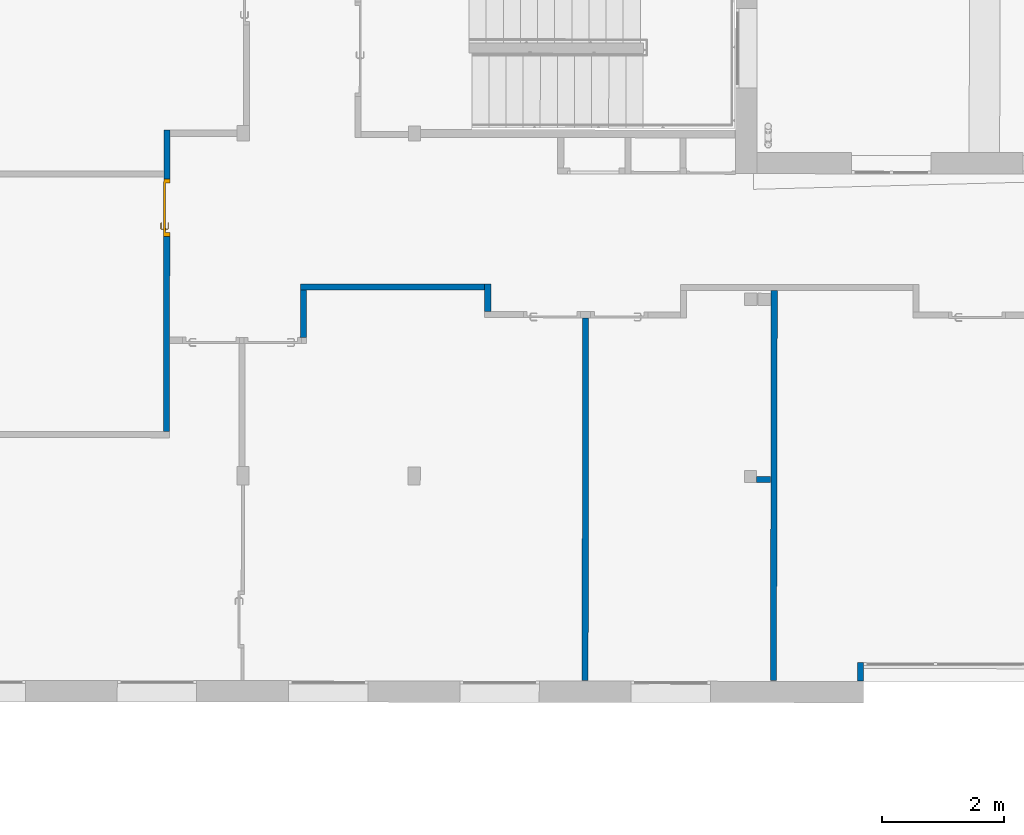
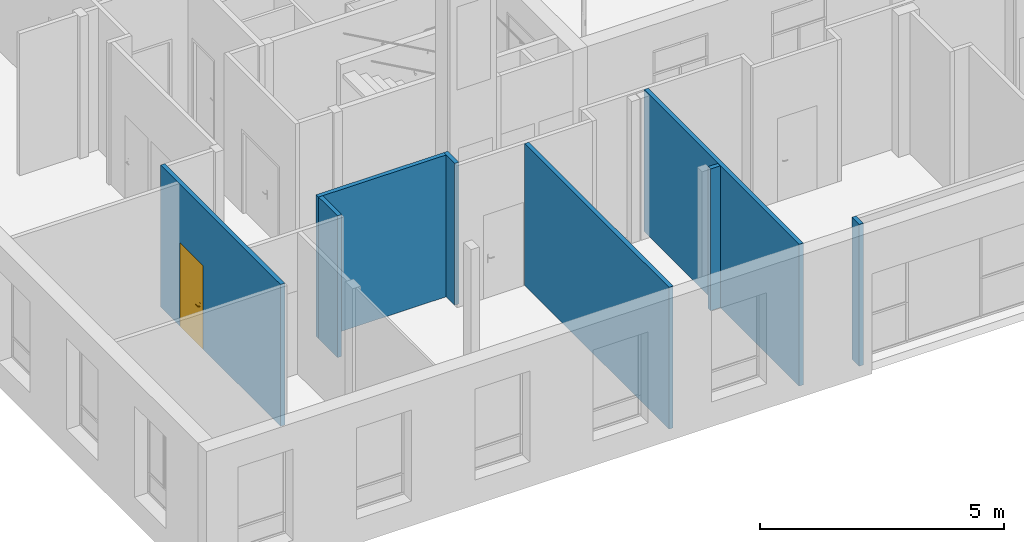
# One storey, part 44 of 101: 8 walls, 1 door, 1 opening.
"""IFC2X3 building model written with IfcOpenShell, lengths in metres."""

import ifcopenshell
import ifcopenshell.guid

model = None  # the IFC model being written
_history = None  # IfcOwnerHistory: only IFC2X3 demands one
_inside = {}  # id of a spatial element -> (the spatial element, [elements in it])
_under = {}  # id of a project, library or spatial element -> (it, [spatial elements below it])
_declared = {}  # id of a project -> (the project, [libraries it declares])
_typed = {}  # id of a type object -> (the type object, [elements of that type])
_made_of = {}  # id of a material, layer set ... -> (it, [elements and type objects made of it])


def new_model(schema):
    """Start an empty IFC model of exactly this schema.

    Asked for "IFC4X3", IfcOpenShell would pick the latest addendum, in which some entities
    have other attributes; the version numbers below select the first issue.
    IFC2X3 requires an IfcOwnerHistory on every rooted entity: one is made here for all.
    """
    global model, _history
    if schema == "IFC4X3":
        model = ifcopenshell.file(schema_version=(4, 3, 0, 0))
    else:
        model = ifcopenshell.file(schema=schema)
    _inside.clear()
    _under.clear()
    _declared.clear()
    _typed.clear()
    _made_of.clear()
    _history = None
    if model.schema == "IFC2X3":
        org = make("IfcOrganization", Name="unknown")
        user = make(
            "IfcPersonAndOrganization",
            ThePerson=make("IfcPerson", FamilyName="unknown"),
            TheOrganization=org,
        )
        app = make(
            "IfcApplication",
            ApplicationDeveloper=org,
            Version="unknown",
            ApplicationFullName="unknown",
            ApplicationIdentifier="unknown",
        )
        _history = make(
            "IfcOwnerHistory",
            OwningUser=user,
            OwningApplication=app,
            ChangeAction="ADDED",
            CreationDate=0,
        )
    return model


def make(cls, **values):
    """One entity of the class cls with the attributes given. An attribute that is None is left unset."""
    return model.create_entity(
        cls, **{name: value for name, value in values.items() if value is not None}
    )


def entity(cls, *values):
    """Any entity or typed value of the class cls, its attributes in the order of the schema. None: left unset."""
    e = model.create_entity(cls)
    for i, value in enumerate(values):
        if value is not None:
            e[i] = value
    return e


def rooted(cls, **values):
    """An entity with a GlobalId (a new one), such as an element, a storey or a relation."""
    return make(cls, GlobalId=ifcopenshell.guid.new(), OwnerHistory=_history, **values)


def si_unit(unit_type, name, prefix=None):
    """IfcSIUnit, for example si_unit("LENGTHUNIT", "METRE", prefix="MILLI")."""
    return make("IfcSIUnit", UnitType=unit_type, Prefix=prefix, Name=name)


def converted_unit(unit_type, name, factor, base, dimensions=None, offset=None):
    """IfcConversionBasedUnit, such as the inch: factor (a typed value) times the base unit."""
    return make(
        "IfcConversionBasedUnit"
        if offset is None
        else "IfcConversionBasedUnitWithOffset",
        ConversionOffset=offset,
        Dimensions=None
        if dimensions is None
        else entity("IfcDimensionalExponents", *dimensions),
        UnitType=unit_type,
        Name=name,
        ConversionFactor=make(
            "IfcMeasureWithUnit", ValueComponent=factor, UnitComponent=base
        ),
    )


def derived_unit(unit_type, elements):
    """IfcDerivedUnit: a product of units, each with its exponent."""
    return make(
        "IfcDerivedUnit",
        Elements=[
            make("IfcDerivedUnitElement", Unit=unit, Exponent=power)
            for unit, power in elements
        ],
        UnitType=unit_type,
    )


def assignment(units):
    """IfcUnitAssignment: the units of a project."""
    return None if units is None else make("IfcUnitAssignment", Units=units)


def point(xyz):
    """IfcCartesianPoint."""
    return None if xyz is None else make("IfcCartesianPoint", Coordinates=xyz)


def direction(xyz):
    """IfcDirection."""
    return None if xyz is None else make("IfcDirection", DirectionRatios=xyz)


def frame(location, z_axis=None, x_axis=None):
    """IfcAxis2Placement3D, a coordinate frame: its origin and axes. An axis left out is left unset."""
    return make(
        "IfcAxis2Placement3D",
        Location=point(location),
        Axis=direction(z_axis),
        RefDirection=direction(x_axis),
    )


def frame_2d(location, x_axis=None):
    """IfcAxis2Placement2D, a coordinate frame in the plane: its origin and x axis."""
    return make(
        "IfcAxis2Placement2D", Location=point(location), RefDirection=direction(x_axis)
    )


def origin():
    """The frame at (0, 0, 0) with its axes left unset."""
    return frame((0.0, 0.0, 0.0))


def place(relative_to, where):
    """IfcLocalPlacement: puts the frame where relative to a parent placement (None: the world)."""
    return make(
        "IfcLocalPlacement", PlacementRelTo=relative_to, RelativePlacement=where
    )


def context(
    kind, dimensions, precision=None, world=None, true_north=None, identifier=None
):
    """IfcGeometricRepresentationContext, for example the 3D "Model" context."""
    return make(
        "IfcGeometricRepresentationContext",
        ContextIdentifier=identifier,
        ContextType=kind,
        CoordinateSpaceDimension=dimensions,
        Precision=precision,
        WorldCoordinateSystem=world,
        TrueNorth=true_north,
    )


def subcontext(parent, identifier, kind, view, scale=None):
    """IfcGeometricRepresentationSubContext, for example "Body" below "Model"."""
    return make(
        "IfcGeometricRepresentationSubContext",
        ContextIdentifier=identifier,
        ContextType=kind,
        ParentContext=parent,
        TargetScale=scale,
        TargetView=view,
    )


def project(units=None, contexts=None):
    """IfcProject with its units and contexts."""
    return rooted(
        "IfcProject",
        Name="project",
        RepresentationContexts=contexts,
        UnitsInContext=assignment(units),
    )


def spatial(cls, under=None, at=None, **own):
    """A site, building, storey or space (cls), placed at a placement, below another one or the project."""
    s = rooted(cls, ObjectPlacement=at, **own)
    if under is not None:
        _under.setdefault(under.id(), (under, []))[1].append(s)
    return s


def polyline(points):
    """IfcPolyline through the points."""
    return make("IfcPolyline", Points=[point(p) for p in points])


def profile(cls, at=None, kind="AREA", **sizes):
    """A parametric profile (cls). Its sizes go by their IFC names, for example OverallWidth=200.0."""
    return make(cls, ProfileType=kind, Position=at, **sizes)


def rectangle(**sizes):
    """IfcRectangleProfileDef."""
    return profile("IfcRectangleProfileDef", **sizes)


def outline(outer, holes=None, kind="AREA"):
    """IfcArbitraryClosedProfileDef: a profile drawn as a closed curve; with holes, ...WithVoids."""
    if holes is None:
        return make("IfcArbitraryClosedProfileDef", ProfileType=kind, OuterCurve=outer)
    return make(
        "IfcArbitraryProfileDefWithVoids",
        ProfileType=kind,
        OuterCurve=outer,
        InnerCurves=holes,
    )


def extrude(swept, where, along, depth):
    """IfcExtrudedAreaSolid: the profile swept, set in the frame where, extruded along a direction by depth."""
    return make(
        "IfcExtrudedAreaSolid",
        SweptArea=swept,
        Position=where,
        ExtrudedDirection=direction(along),
        Depth=depth,
    )


def faces_of(points, faces, orient=None, outer=None):
    """IfcFace entities. A face is a list of loops; a loop is a list of indices into points, from 0.

    orient and outer hold one flag for each loop. By default every Orientation is true, the
    first loop of a face is its IfcFaceOuterBound and the others are IfcFaceBound.
    """
    made = []
    for i, loops in enumerate(faces):
        bounds = []
        for j, loop in enumerate(loops):
            is_outer = j == 0 if outer is None else outer[i][j]
            bounds.append(
                make(
                    "IfcFaceOuterBound" if is_outer else "IfcFaceBound",
                    Bound=make("IfcPolyLoop", Polygon=[points[k] for k in loop]),
                    Orientation=True if orient is None else orient[i][j],
                )
            )
        made.append(make("IfcFace", Bounds=bounds))
    return made


def faceted_brep(points, faces, orient=None, outer=None, voids=None):
    """IfcFacetedBrep: a solid bounded by flat faces; with voids (closed shells), ...WithVoids."""
    shared = [point(p) for p in points]
    hull = make("IfcClosedShell", CfsFaces=faces_of(shared, faces, orient, outer))
    if voids is None:
        return make("IfcFacetedBrep", Outer=hull)
    return make(
        "IfcFacetedBrepWithVoids",
        Outer=hull,
        Voids=[
            make(cls, CfsFaces=faces_of(shared, fs, o, b)) for cls, fs, o, b in voids
        ],
    )


def shape(context_of_items, identifier, shape_type, items):
    """IfcShapeRepresentation: the items that make up one representation, for example the "Body"."""
    return make(
        "IfcShapeRepresentation",
        ContextOfItems=context_of_items,
        RepresentationIdentifier=identifier,
        RepresentationType=shape_type,
        Items=items,
    )


def source(mapping_origin, context_of_items, identifier, shape_type, items):
    """IfcRepresentationMap: a shape defined once, which mapped items show again and again."""
    return make(
        "IfcRepresentationMap",
        MappingOrigin=mapping_origin,
        MappedRepresentation=shape(context_of_items, identifier, shape_type, items),
    )


def transform(
    local_origin,
    x_axis=None,
    y_axis=None,
    z_axis=None,
    scale=None,
    scale2=None,
    scale3=None,
    uniform=True,
):
    """IfcCartesianTransformationOperator3D, or its non-uniform kind. x_axis, y_axis, z_axis: its Axis1, 2, 3."""
    if uniform:
        return make(
            "IfcCartesianTransformationOperator3D",
            Axis1=direction(x_axis),
            Axis2=direction(y_axis),
            LocalOrigin=point(local_origin),
            Scale=scale,
            Axis3=direction(z_axis),
        )
    return make(
        "IfcCartesianTransformationOperator3DnonUniform",
        Axis1=direction(x_axis),
        Axis2=direction(y_axis),
        LocalOrigin=point(local_origin),
        Scale=scale,
        Axis3=direction(z_axis),
        Scale2=scale2,
        Scale3=scale3,
    )


def mapped(mapping_source, mapping_target):
    """IfcMappedItem: shows the shape of a source again, moved by a transform."""
    return make(
        "IfcMappedItem", MappingSource=mapping_source, MappingTarget=mapping_target
    )


def material(Name=None, Category=None):
    """IfcMaterial."""
    return make("IfcMaterial", Name=Name, Category=Category)


def material_list(materials):
    """IfcMaterialList."""
    return make("IfcMaterialList", Materials=materials)


def layer(
    of_material, thickness, ventilated=None, Name=None, Category=None, Priority=None
):
    """IfcMaterialLayer: one layer of a wall or slab, of a material (None: an air gap)."""
    return make(
        "IfcMaterialLayer",
        Material=of_material,
        LayerThickness=thickness,
        IsVentilated=ventilated,
        Name=Name,
        Category=Category,
        Priority=Priority,
    )


def layer_set(layers, Name=None):
    """IfcMaterialLayerSet."""
    return make("IfcMaterialLayerSet", MaterialLayers=layers, LayerSetName=Name)


def layer_usage(for_layer_set, set_direction, sense, offset, extent=None):
    """IfcMaterialLayerSetUsage: how a layer set lies in its element."""
    return make(
        "IfcMaterialLayerSetUsage",
        ForLayerSet=for_layer_set,
        LayerSetDirection=set_direction,
        DirectionSense=sense,
        OffsetFromReferenceLine=offset,
        ReferenceExtent=extent,
    )


def made_of(thing, what):
    """Note that an element or type object is made of a material, layer set ...; save() writes the relation."""
    if what is not None:
        _made_of.setdefault(what.id(), (what, []))[1].append(thing)
    return thing


def type_object(cls, material=None, **own):
    """A type object (cls), such as IfcWallType, which elements share."""
    return made_of(rooted(cls, **own), material)


def type_shapes(of_type, sources):
    """Give a type object the sources (RepresentationMaps) that its elements show as mapped items."""
    of_type.RepresentationMaps = sources


def element(
    cls,
    number,
    at=None,
    inside=None,
    cuts=None,
    type_object=None,
    material=None,
    context=None,
    identifier="Body",
    shape_type=None,
    held_by="IfcProductDefinitionShape",
    body=None,
    shapes=None,
    **own,
):
    """One element of the class cls, such as IfcWall. Its Tag is "e" and its number.

    at: its placement. inside: the storey or other place that contains it. cuts: it is an
    opening in that element (IfcRelVoidsElement). A single representation is given by context,
    identifier, shape_type and body (its items); several are given by shapes. held_by: the class
    of the entity that holds the representations. save() writes the other relations.
    """
    e = rooted(cls, Tag="e%d" % number, ObjectPlacement=at, **own)
    if body is not None:
        shapes = [shape(context, identifier, shape_type, body)]
    if shapes is not None:
        e.Representation = make(held_by, Representations=shapes)
    if inside is not None:
        _inside.setdefault(inside.id(), (inside, []))[1].append(e)
    if cuts is not None:
        rooted(
            "IfcRelVoidsElement", RelatingBuildingElement=cuts, RelatedOpeningElement=e
        )
    if type_object is not None:
        _typed.setdefault(type_object.id(), (type_object, []))[1].append(e)
    return made_of(e, material)


def fill(opening, filler):
    """IfcRelFillsElement: the door or window that sits in an opening."""
    return rooted(
        "IfcRelFillsElement",
        RelatingOpeningElement=opening,
        RelatedBuildingElement=filler,
    )


def aggregate(whole, parts):
    """IfcRelAggregates: a whole, such as a stair, and the parts it consists of."""
    return rooted("IfcRelAggregates", RelatingObject=whole, RelatedObjects=parts)


def save(model, path):
    """Write the relations noted so far, then the file.

    IfcRelAggregates (storeys below a building ...), IfcRelContainedInSpatialStructure (elements
    in a storey), IfcRelDefinesByType, IfcRelAssociatesMaterial and IfcRelDeclares: one each for
    every whole, place, type object, material and project.
    """
    for whole, parts in _under.values():
        aggregate(whole, parts)
    for where, things in _inside.values():
        rooted(
            "IfcRelContainedInSpatialStructure",
            RelatedElements=things,
            RelatingStructure=where,
        )
    for kind, things in _typed.values():
        rooted("IfcRelDefinesByType", RelatedObjects=things, RelatingType=kind)
    for what, things in _made_of.values():
        rooted("IfcRelAssociatesMaterial", RelatedObjects=things, RelatingMaterial=what)
    for by, libraries in _declared.values():
        rooted("IfcRelDeclares", RelatingContext=by, RelatedDefinitions=libraries)
    model.write(path)


model = new_model("IFC2X3")

# Units and contexts
model_context = context("Model", 3, precision=1e-05, world=origin(), true_north=direction((6.123233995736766e-17, 1.0)))
body_context = subcontext(model_context, "Body", "Model", "MODEL_VIEW")
ifc_project = project(units=[si_unit("LENGTHUNIT", "METRE"), si_unit("AREAUNIT", "SQUARE_METRE"), converted_unit("PLANEANGLEUNIT", "DEGREE", entity("IfcPlaneAngleMeasure", 0.017453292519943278), si_unit("PLANEANGLEUNIT", "RADIAN"), dimensions=[0, 0, 0, 0, 0, 0, 0]), derived_unit("THERMALTRANSMITTANCEUNIT", [(si_unit("MASSUNIT", "GRAM", prefix="KILO"), 1), (si_unit("THERMODYNAMICTEMPERATUREUNIT", "KELVIN"), -1), (si_unit("TIMEUNIT", "SECOND"), -3)])], contexts=[model_context])

# Site, building, storey
site_placement = place(None, frame((1253.6752467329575, 2072.143113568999, 91.49999999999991), z_axis=(0.0, 0.0, 1.0), x_axis=(0.7237211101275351, 0.6900925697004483, 0.0)))
site = spatial("IfcSite", under=ifc_project, at=site_placement, Name="Surface", CompositionType="ELEMENT")
building_placement = place(site_placement, origin())
building = spatial("IfcBuilding", under=site, at=building_placement, CompositionType="ELEMENT")
storey_placement = place(building_placement, origin())
storey = spatial("IfcBuildingStorey", under=building, at=storey_placement, Name="0- Rdc", CompositionType="ELEMENT", Elevation=-5.764692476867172e-13)

# Walls
ifc_material_1 = material(Name="OMD_Béton blanc")
ifc_layer = layer(ifc_material_1, 0.1)
ifc_layer_set = layer_set([ifc_layer], Name="Mur de base:MUR 10")
ifc_layer_usage_1 = layer_usage(ifc_layer_set, "AXIS2", "NEGATIVE", 0.05)
wall_type = type_object("IfcWallType", Name="Mur de base:MUR 10", PredefinedType="STANDARD", material=ifc_layer_set)
wall_1_placement = place(storey_placement, frame((158.72090698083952, -0.7320505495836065, 0.0), z_axis=(0.0, 0.0, 1.0), x_axis=(-0.6915501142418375, -0.7223284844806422, 0.0)))
element("IfcWallStandardCase", 1, at=wall_1_placement, inside=storey, type_object=wall_type, material=ifc_layer_usage_1, Name="Mur de base:MUR 10", ObjectType="Mur de base:MUR 10", context=body_context, shape_type="SweptSolid", body=[
    extrude(outline(polyline([(-0.05000000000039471, -3.1899813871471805), (0.04999999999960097, -3.1899813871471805), (0.05000000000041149, 3.1900205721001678), (-0.049999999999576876, 3.1899422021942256), (-0.05000000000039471, -3.1899813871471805)])), frame((3.1900205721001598, 0.0, 0.0), z_axis=(0.0, 0.0, 1.0), x_axis=(0.0, 1.0, 0.0)), (0.0, 0.0, 1.0), 3.5499999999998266),
])
ifc_layer_usage_2 = layer_usage(ifc_layer_set, "AXIS2", "NEGATIVE", 0.05)
wall_2_placement = place(storey_placement, frame((155.4033312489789, 2.5774673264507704, 0.0), z_axis=(0.0, 0.0, 1.0), x_axis=(-0.6909838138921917, -0.7228702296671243, 0.0)))
element("IfcWallStandardCase", 2, at=wall_2_placement, inside=storey, type_object=wall_type, material=ifc_layer_usage_2, Name="Mur de base:MUR 10", ObjectType="Mur de base:MUR 10", context=body_context, shape_type="SweptSolid", body=[
    extrude(rectangle(XDim=0.4500000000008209, YDim=0.09999999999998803, at=frame_2d((0.22500000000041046, 2.393918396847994e-16), x_axis=(-1.0, 0.0))), origin(), (0.0, 0.0, 1.0), 3.5499999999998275),
])
ifc_layer_usage_3 = layer_usage(ifc_layer_set, "AXIS2", "NEGATIVE", 0.05)
wall_3_placement = place(storey_placement, frame((153.15318480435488, 4.6591892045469, 0.0), z_axis=(0.0, 0.0, 1.0), x_axis=(0.7228702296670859, -0.690983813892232, 0.0)))
element("IfcWallStandardCase", 3, at=wall_3_placement, inside=storey, type_object=wall_type, material=ifc_layer_usage_3, Name="Mur de base:MUR 10", ObjectType="Mur de base:MUR 10", context=body_context, shape_type="SweptSolid", body=[
    extrude(rectangle(XDim=3.0149999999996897, YDim=0.10000000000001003, at=frame_2d((1.5074999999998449, -1.1761425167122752e-15), x_axis=(-1.0, 0.0))), origin(), (0.0, 0.0, 1.0), 3.5499999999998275),
])
ifc_layer_usage_4 = layer_usage(ifc_layer_set, "AXIS2", "NEGATIVE", 0.05)
wall_4_placement = place(storey_placement, frame((156.54598204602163, -2.927743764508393, 0.0), z_axis=(0.0, 0.0, 1.0), x_axis=(-0.7228702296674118, 0.6909838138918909, 0.0)))
element("IfcWallStandardCase", 4, at=wall_4_placement, inside=storey, type_object=wall_type, material=ifc_layer_usage_4, Name="Mur de base:MUR 10", ObjectType="Mur de base:MUR 10", context=body_context, shape_type="SweptSolid", body=[
    extrude(rectangle(XDim=0.23000000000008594, YDim=0.09999999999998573, at=frame_2d((0.11500000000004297, -2.175343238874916e-15), x_axis=(-1.0, 0.0))), origin(), (0.0, 0.0, 1.0), 3.5499999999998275),
])
ifc_layer_usage_5 = layer_usage(ifc_layer_set, "AXIS2", "NEGATIVE", 0.05)
wall_5_placement = place(storey_placement, frame((156.17988251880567, 1.0743145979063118, 0.0), z_axis=(0.0, 0.0, 1.0), x_axis=(-0.6909838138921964, -0.7228702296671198, 0.0)))
element("IfcWallStandardCase", 5, at=wall_5_placement, inside=storey, type_object=wall_type, material=ifc_layer_usage_5, Name="Mur de base:MUR 10", ObjectType="Mur de base:MUR 10", context=body_context, shape_type="SweptSolid", body=[
    extrude(rectangle(XDim=5.930000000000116, YDim=0.100000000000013, at=frame_2d((2.965000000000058, 3.0912772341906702e-15), x_axis=(-1.0, 0.0))), origin(), (0.0, 0.0, 1.0), 3.5499999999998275),
])
ifc_layer_usage_6 = layer_usage(ifc_layer_set, "AXIS2", "NEGATIVE", 0.05)
wall_6_placement = place(storey_placement, frame((153.15477912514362, 4.5884965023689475, 0.0), z_axis=(0.0, 0.0, 1.0), x_axis=(-0.6909838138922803, -0.7228702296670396, 0.0)))
element("IfcWallStandardCase", 6, at=wall_6_placement, inside=storey, type_object=wall_type, material=ifc_layer_usage_6, Name="Mur de base:MUR 10", ObjectType="Mur de base:MUR 10", context=body_context, shape_type="SweptSolid", body=[
    extrude(rectangle(XDim=0.7749999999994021, YDim=0.09999999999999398, at=frame_2d((0.3874999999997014, 2.0469737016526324e-16), x_axis=(-1.0, 0.0))), origin(), (0.0, 0.0, 1.0), 3.5499999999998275),
])

# Wall, opening, door
ifc_layer_usage_7 = layer_usage(ifc_layer_set, "AXIS2", "NEGATIVE", 0.05)
wall_7_placement = place(storey_placement, frame((153.34263191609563, 8.019536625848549, 0.0), z_axis=(0.0, 0.0, 1.0), x_axis=(-0.6909838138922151, -0.722870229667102, 0.0)))
wall_7 = element("IfcWallStandardCase", 7, at=wall_7_placement, inside=storey, type_object=wall_type, material=ifc_layer_usage_7, Name="Mur de base:MUR 10", ObjectType="Mur de base:MUR 10", context=body_context, shape_type="SweptSolid", body=[
    extrude(rectangle(XDim=4.92999999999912, YDim=0.09999999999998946, at=frame_2d((2.46499999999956, 1.0477729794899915e-15), x_axis=(-1.0, 0.0))), origin(), (0.0, 0.0, 1.0), 3.5499999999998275),
])
opening_placement = place(wall_7_placement, frame((1.7374999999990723, 0.0499999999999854, 0.0)))
opening = element("IfcOpeningElement", 8, at=opening_placement, cuts=wall_7, Name="OMD_Porte 1V tunnel:80x204:1", ObjectType="Opening", context=body_context, shape_type="SweptSolid", body=[
    extrude(rectangle(XDim=2.0850000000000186, YDim=0.9349999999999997, at=frame_2d((1.0425000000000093, 0.46749999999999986), x_axis=(1.0, 0.0))), frame((0.0, 0.0, 0.0), z_axis=(0.0, -1.0, 0.0), x_axis=(0.0, 0.0, 1.0)), (0.0, 0.0, 1.0), 0.09999999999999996),
])
ifc_material_2 = material(Name="Porte - Poignée")
ifc_material_3 = material(Name="OMD_Peinture mur")
ifc_material_4 = material(Name="OMD_Bois")
ifc_material_list = material_list([ifc_material_2, ifc_material_3, ifc_material_4])
door_style = type_object("IfcDoorStyle", Name="OMD_Porte 1V tunnel:80x204", ConstructionType="NOTDEFINED", OperationType="NOTDEFINED", ParameterTakesPrecedence=False, Sizeable=False, material=ifc_material_list)
shared_shape = source(origin(), body_context, "Body", "Brep", [
    faceted_brep([(0.8220252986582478, 0.03500000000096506, 1.0077804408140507), (0.8179747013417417, 0.03500000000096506, 1.007780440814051), (0.8139999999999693, 0.03500000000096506, 1.00699999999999), (0.8139999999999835, 0.03500000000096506, 0.9930000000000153), (0.8179747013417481, 0.03500000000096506, 0.9922195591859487), (0.8220252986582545, 0.03500000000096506, 0.9922195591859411), (0.8260000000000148, 0.03500000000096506, 0.9929999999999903), (0.826000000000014, 0.03500000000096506, 1.006999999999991), (0.8139999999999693, 0.05748520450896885, 1.00699999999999), (0.8139999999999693, 0.05748520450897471, 0.9930000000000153), (0.8179747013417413, 0.059131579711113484, 1.007780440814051), (0.8220252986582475, 0.060809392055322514, 1.0077804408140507), (0.8058389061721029, 0.07699578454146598, 1.0077804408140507), (0.8041610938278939, 0.07294518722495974, 1.007780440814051), (0.7207931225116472, 0.07294518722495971, 1.0077804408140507), (0.7191153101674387, 0.07699578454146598, 1.0077804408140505), (0.7114510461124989, 0.06933152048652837, 1.0077804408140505), (0.714315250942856, 0.0664673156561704, 1.0077804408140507), (0.8260000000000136, 0.062455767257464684, 1.006999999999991), (0.8260000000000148, 0.062455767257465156, 0.9929999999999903), (0.8220252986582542, 0.06080939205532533, 0.9922195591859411), (0.8179747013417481, 0.05913157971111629, 0.9922195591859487), (0.8041610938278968, 0.07294518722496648, 0.9922195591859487), (0.8058389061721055, 0.07699578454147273, 0.9922195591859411), (0.7191153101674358, 0.07699578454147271, 0.9922195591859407), (0.7207931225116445, 0.07294518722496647, 0.9922195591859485), (0.7143152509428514, 0.06646731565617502, 0.9922195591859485), (0.7114510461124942, 0.06933152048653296, 0.9922195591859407), (0.8025147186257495, 0.06897048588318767, 1.00699999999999), (0.8025147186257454, 0.06897048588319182, 0.9930000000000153), (0.8074852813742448, 0.08097048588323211, 1.006999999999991), (0.8074852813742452, 0.08097048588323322, 0.9929999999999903), (0.7624771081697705, 0.06897048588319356, 1.0069999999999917), (0.7224394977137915, 0.06897048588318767, 1.0069999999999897), (0.7224394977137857, 0.0689704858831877, 0.9930000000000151), (0.7624771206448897, 0.06897048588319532, 0.9930000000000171), (0.7624771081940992, 0.07512492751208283, 1.0078781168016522), (0.7573994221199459, 0.08097048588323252, 1.0069999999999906), (0.7174689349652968, 0.08097048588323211, 1.0069999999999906), (0.7675547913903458, 0.08097048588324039, 0.9929999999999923), (0.7174689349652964, 0.08097048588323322, 0.99299999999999), (0.762477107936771, 0.07512492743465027, 0.9921218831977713), (0.7086405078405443, 0.07214205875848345, 1.0069999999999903), (0.7086405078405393, 0.07214205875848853, 0.9929999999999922), (0.7171257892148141, 0.06365677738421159, 0.9930000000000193), (0.71712578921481, 0.06365677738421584, 1.0069999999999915)], [[[0, 1, 2, 3, 4, 5, 6, 7]], [[8, 9, 3, 2]], [[1, 10, 8, 2]], [[1, 0, 11, 12, 13, 10]], [[14, 15, 16, 17]], [[7, 18, 11, 0]], [[18, 7, 6, 19]], [[6, 5, 20, 19]], [[5, 4, 21, 22, 23, 20]], [[24, 25, 26, 27]], [[4, 3, 9, 21]], [[28, 29, 9, 8]], [[8, 10, 13, 28]], [[18, 30, 12, 11]], [[31, 30, 18, 19]], [[19, 20, 23, 31]], [[21, 9, 29, 22]], [[29, 28, 32, 33, 34, 35]], [[36, 32, 13]], [[37, 38, 15]], [[37, 12, 30]], [[36, 12, 37]], [[14, 32, 36]], [[36, 15, 14]], [[28, 13, 32]], [[32, 14, 33]], [[12, 36, 13]], [[15, 36, 37]], [[30, 31, 39, 40, 38, 37]], [[23, 41, 39]], [[24, 39, 41]], [[39, 31, 23]], [[39, 24, 40]], [[22, 35, 41]], [[41, 23, 22]], [[41, 35, 25]], [[35, 22, 29]], [[34, 25, 35]], [[24, 41, 25]], [[17, 16, 42, 43, 27, 26, 44, 45]], [[45, 44, 34, 33]], [[33, 14, 17, 45]], [[15, 38, 42, 16]], [[43, 42, 38, 40]], [[24, 27, 43, 40]], [[34, 44, 26, 25]]]),
    faceted_brep([(0.817974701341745, -0.004999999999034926, 1.007780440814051), (0.8220252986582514, -0.004999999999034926, 1.0077804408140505), (0.8260000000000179, -0.004999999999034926, 1.0069999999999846), (0.8260000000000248, -0.004999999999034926, 0.9929999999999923), (0.8220252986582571, -0.004999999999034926, 0.992219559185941), (0.817974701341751, -0.004999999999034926, 0.9922195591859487), (0.8139999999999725, -0.004999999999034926, 0.9930000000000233), (0.8139999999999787, -0.004999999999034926, 1.006999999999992), (0.8220252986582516, -0.03100457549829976, 1.0077804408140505), (0.8260000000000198, -0.03265095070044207, 1.0069999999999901), (0.8179747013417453, -0.02932676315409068, 1.007780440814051), (0.8042986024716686, -0.04300286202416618, 1.007780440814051), (0.8059764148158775, -0.04705345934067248, 1.0077804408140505), (0.7191424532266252, -0.04705345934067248, 1.0077804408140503), (0.7208202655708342, -0.04300286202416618, 1.0077804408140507), (0.714342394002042, -0.03652499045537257, 1.0077804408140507), (0.7114781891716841, -0.039389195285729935, 1.0077804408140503), (0.813999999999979, -0.02768038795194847, 1.006999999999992), (0.8139999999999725, -0.02768038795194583, 0.9930000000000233), (0.817974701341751, -0.029326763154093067, 0.9922195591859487), (0.8220252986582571, -0.031004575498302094, 0.992219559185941), (0.8059764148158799, -0.0470534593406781, 0.992219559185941), (0.804298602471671, -0.04300286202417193, 0.9922195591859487), (0.7208202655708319, -0.04300286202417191, 0.9922195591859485), (0.7191424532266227, -0.047053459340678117, 0.9922195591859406), (0.71147818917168, -0.03938919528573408, 0.9922195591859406), (0.7143423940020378, -0.036524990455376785, 0.9922195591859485), (0.8260000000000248, -0.032650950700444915, 0.9929999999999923), (0.807622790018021, -0.051028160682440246, 1.0069999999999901), (0.8026522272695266, -0.03902816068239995, 1.006999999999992), (0.8026522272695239, -0.03902816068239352, 0.9930000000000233), (0.8076227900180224, -0.05102816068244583, 0.9929999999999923), (0.762559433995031, -0.0451828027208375, 1.0078781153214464), (0.7676923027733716, -0.05102816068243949, 1.0069999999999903), (0.7174960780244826, -0.05102816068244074, 1.00699999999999), (0.7625594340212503, -0.03902816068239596, 1.0069999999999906), (0.7224666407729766, -0.039028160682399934, 1.0069999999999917), (0.7625594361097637, -0.03902816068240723, 0.9930000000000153), (0.7224666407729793, -0.03902816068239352, 0.9930000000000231), (0.7625594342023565, -0.04518280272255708, 0.9921218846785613), (0.7574265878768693, -0.051028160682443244, 0.9929999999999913), (0.7174960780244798, -0.05102816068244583, 0.9929999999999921), (0.7171529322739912, -0.033714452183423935, 0.9930000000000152), (0.7086676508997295, -0.04219973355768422, 0.9929999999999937), (0.7086676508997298, -0.04219973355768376, 1.0069999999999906), (0.717152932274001, -0.03371445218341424, 1.0069999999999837)], [[[0, 1, 2, 3, 4, 5, 6, 7]], [[2, 1, 8, 9]], [[1, 0, 10, 11, 12, 8]], [[13, 14, 15, 16]], [[0, 7, 17, 10]], [[18, 17, 7, 6]], [[5, 19, 18, 6]], [[5, 4, 20, 21, 22, 19]], [[23, 24, 25, 26]], [[3, 27, 20, 4]], [[9, 27, 3, 2]], [[9, 8, 12, 28]], [[10, 17, 29, 11]], [[30, 29, 17, 18]], [[18, 19, 22, 30]], [[20, 27, 31, 21]], [[28, 31, 27, 9]], [[12, 32, 33]], [[13, 33, 32]], [[33, 28, 12]], [[33, 13, 34]], [[11, 35, 32]], [[32, 12, 11]], [[32, 35, 14]], [[35, 11, 29]], [[36, 14, 35]], [[13, 32, 14]], [[29, 30, 37, 38, 36, 35]], [[39, 37, 22]], [[40, 41, 24]], [[40, 21, 31]], [[39, 21, 40]], [[23, 37, 39]], [[39, 24, 23]], [[30, 22, 37]], [[37, 23, 38]], [[21, 39, 22]], [[24, 39, 40]], [[31, 28, 33, 34, 41, 40]], [[42, 26, 25, 43, 44, 16, 15, 45]], [[13, 16, 44, 34]], [[36, 45, 15, 14]], [[42, 45, 36, 38]], [[38, 23, 26, 42]], [[24, 41, 43, 25]], [[44, 43, 41, 34]]]),
    faceted_brep([(0.8199999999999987, 0.030000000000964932, 0.8646410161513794), (0.8303527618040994, 0.03000000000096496, 0.866003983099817), (0.8399999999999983, 0.030000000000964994, 0.8700000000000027), (0.8399999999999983, 0.030000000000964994, 1.0800000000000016), (0.8303527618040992, 0.03000000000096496, 1.0839960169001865), (0.8199999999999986, 0.030000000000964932, 1.0853589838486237), (0.809647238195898, 0.030000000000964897, 1.0839960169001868), (0.7999999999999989, 0.030000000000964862, 1.0800000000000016), (0.7999999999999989, 0.030000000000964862, 0.8700000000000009), (0.8096472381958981, 0.030000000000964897, 0.8660039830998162), (0.8199999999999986, 0.03500000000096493, 1.0853589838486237), (0.8303527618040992, 0.03500000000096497, 1.0839960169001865), (0.8399999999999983, 0.035000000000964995, 1.0800000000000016), (0.8399999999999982, 0.035000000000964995, 0.8700000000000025), (0.8303527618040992, 0.03500000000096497, 0.866003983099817), (0.8199999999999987, 0.03500000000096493, 0.8646410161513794), (0.8096472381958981, 0.0350000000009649, 0.8660039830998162), (0.7999999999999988, 0.03500000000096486, 0.8700000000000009), (0.7999999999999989, 0.03500000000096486, 1.0800000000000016), (0.809647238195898, 0.0350000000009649, 1.0839960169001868)], [[[0, 1, 2, 3, 4, 5, 6, 7, 8, 9]], [[10, 11, 12, 13, 14, 15, 16, 17, 18, 19]], [[6, 19, 18, 7]], [[5, 10, 19, 6]], [[4, 11, 10, 5]], [[4, 3, 12, 11]], [[12, 3, 2, 13]], [[1, 14, 13, 2]], [[0, 15, 14, 1]], [[9, 16, 15, 0]], [[9, 8, 17, 16]], [[17, 8, 7, 18]]]),
    faceted_brep([(0.819999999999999, -0.004999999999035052, 0.8646410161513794), (0.8303527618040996, -0.0049999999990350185, 0.8660039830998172), (0.8399999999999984, -0.004999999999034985, 0.8700000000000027), (0.8399999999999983, -0.004999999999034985, 1.0800000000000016), (0.8303527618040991, -0.0049999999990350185, 1.0839960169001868), (0.8199999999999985, -0.004999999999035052, 1.0853589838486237), (0.8096472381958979, -0.004999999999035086, 1.0839960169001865), (0.7999999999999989, -0.004999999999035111, 1.0800000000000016), (0.7999999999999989, -0.004999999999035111, 0.8700000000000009), (0.8096472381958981, -0.004999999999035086, 0.8660039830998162), (0.8399999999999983, 0.0, 1.0800000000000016), (0.8399999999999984, 0.0, 0.8700000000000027), (0.8303527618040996, 0.0, 0.8660039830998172), (0.819999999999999, 0.0, 0.8646410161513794), (0.8096472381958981, 0.0, 0.8660039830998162), (0.7999999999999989, 0.0, 0.8700000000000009), (0.7999999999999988, 0.0, 1.0800000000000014), (0.8096472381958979, 0.0, 1.0839960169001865), (0.8199999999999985, 0.0, 1.0853589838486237), (0.8303527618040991, 0.0, 1.0839960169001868)], [[[0, 1, 2, 3, 4, 5, 6, 7, 8, 9]], [[10, 11, 12, 13, 14, 15, 16, 17, 18, 19]], [[1, 12, 11, 2]], [[0, 13, 12, 1]], [[9, 14, 13, 0]], [[9, 8, 15, 14]], [[15, 8, 7, 16]], [[6, 17, 16, 7]], [[5, 18, 17, 6]], [[4, 19, 18, 5]], [[4, 3, 10, 19]], [[10, 3, 2, 11]]]),
    faceted_brep([(0.89, 0.030000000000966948, 0.0), (0.89, 0.0, 0.0), (0.04500000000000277, 0.0, 0.0), (0.04500000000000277, 0.030000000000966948, 0.0), (0.89, 0.030000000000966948, 2.04), (0.89, 0.0, 2.04), (0.04500000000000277, 0.0, 2.04), (0.04500000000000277, 0.030000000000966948, 2.04)], [[[0, 1, 2, 3]], [[4, 5, 1, 0]], [[5, 6, 2, 1]], [[6, 7, 3, 2]], [[7, 4, 0, 3]], [[4, 7, 6, 5]]]),
    faceted_brep([(0.9350000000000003, 0.0, 0.0), (0.89, 0.0, 0.0), (0.8900000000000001, 0.03000000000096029, 0.0), (0.8750000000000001, 0.030000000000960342, 0.0), (0.8750000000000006, 0.10000000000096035, 0.0), (0.9350000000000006, 0.10000000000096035, 0.0), (0.9350000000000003, 0.0, 2.085), (0.0, 0.0, 2.085), (0.0, 0.0, 0.0), (0.04500000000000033, 0.0, 0.0), (0.04500000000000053, 0.0, 2.04), (0.8899999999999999, 0.0, 2.0399999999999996), (0.89, 0.030000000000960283, 2.0399999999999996), (0.0450000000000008, 0.03000000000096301, 2.0399999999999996), (0.0450000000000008, 0.030000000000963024, 0.0), (0.060000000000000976, 0.030000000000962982, 0.0), (0.060000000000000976, 0.03000000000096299, 2.0249999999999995), (0.8750000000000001, 0.03000000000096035, 2.025), (0.8750000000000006, 0.10000000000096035, 2.0250000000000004), (0.060000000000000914, 0.10000000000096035, 2.025), (0.060000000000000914, 0.10000000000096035, 0.0), (0.0, 0.10000000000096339, 0.0), (0.0, 0.10000000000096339, 2.085), (0.9350000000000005, 0.10000000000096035, 2.085)], [[[0, 1, 2, 3, 4, 5]], [[1, 0, 6, 7, 8, 9, 10, 11]], [[2, 1, 11, 12]], [[3, 2, 12, 13, 14, 15, 16, 17]], [[4, 3, 17, 18]], [[5, 4, 18, 19, 20, 21, 22, 23]], [[0, 5, 23, 6]], [[7, 22, 21, 8]], [[8, 21, 20, 15, 14, 9]], [[13, 10, 9, 14]], [[19, 16, 15, 20]], [[12, 11, 10, 13]], [[18, 17, 16, 19]], [[6, 23, 22, 7]]]),
])
type_shapes(door_style, [shared_shape])
door_placement = place(opening_placement, frame((-0.9350000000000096, -0.09999999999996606, 0.0)))
door = element("IfcDoor", 9, at=door_placement, inside=storey, type_object=door_style, material=ifc_material_list, Name="OMD_Porte 1V tunnel:80x204", ObjectType="OMD_Porte 1V tunnel:80x204", OverallHeight=2.0850000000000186, OverallWidth=0.9349999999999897, context=body_context, shape_type="MappedRepresentation", body=[
    mapped(shared_shape, transform((0.0, 0.0, 0.0), scale=1.0)),
])
fill(opening, door)

# Wall
ifc_layer_usage_8 = layer_usage(ifc_layer_set, "AXIS2", "NEGATIVE", 0.05)
wall_8_placement = place(storey_placement, frame((155.3352645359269, -6.3217330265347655, 0.0), z_axis=(0.0, 0.0, 1.0), x_axis=(0.6909838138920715, 0.7228702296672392, 0.0)))
element("IfcWallStandardCase", 10, at=wall_8_placement, inside=storey, type_object=wall_type, material=ifc_layer_usage_8, Name="Mur de base:MUR 10", ObjectType="Mur de base:MUR 10", context=body_context, shape_type="SweptSolid", body=[
    extrude(rectangle(XDim=0.29999999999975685, YDim=0.10000000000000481, at=frame_2d((0.14999999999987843, 9.124645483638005e-16), x_axis=(-1.0, 0.0))), origin(), (0.0, 0.0, 1.0), 3.5499999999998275),
])

save(model, "model.ifc")
